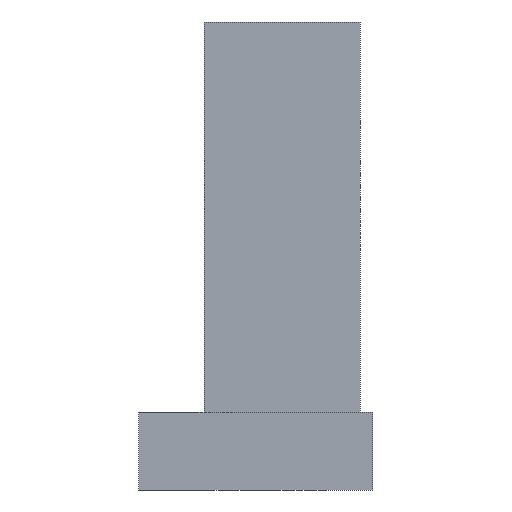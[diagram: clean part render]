
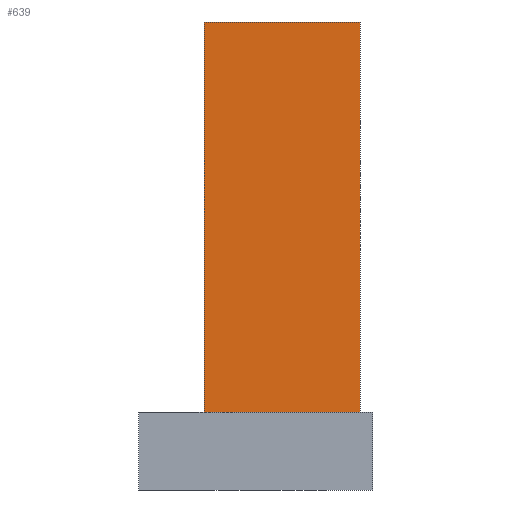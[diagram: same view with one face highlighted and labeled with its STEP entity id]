
A CAD part, left-side view. The second image highlights one B-rep face of the part: STEP entity #639.
In plain terms, the highlighted planar face has unit normal (-1, 0, 0).
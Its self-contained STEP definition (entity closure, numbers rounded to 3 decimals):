
#126 = PLANE('',#127);
#127 = AXIS2_PLACEMENT_3D('',#128,#129,#130);
#128 = CARTESIAN_POINT('',(-18.5,-4.5,3.));
#129 = DIRECTION('',(0.,0.,1.));
#130 = DIRECTION('',(1.,0.,0.));
#266 = VERTEX_POINT('',#267);
#267 = CARTESIAN_POINT('',(2.5,-4.,3.));
#281 = PLANE('',#282);
#282 = AXIS2_PLACEMENT_3D('',#283,#284,#285);
#283 = CARTESIAN_POINT('',(2.5,-4.,2.9));
#284 = DIRECTION('',(0.,1.,0.));
#285 = DIRECTION('',(0.,0.,1.));
#293 = EDGE_CURVE('',#266,#294,#296,.T.);
#294 = VERTEX_POINT('',#295);
#295 = CARTESIAN_POINT('',(2.5,2.,3.));
#296 = SURFACE_CURVE('',#297,(#301,#308),.PCURVE_S1.);
#297 = LINE('',#298,#299);
#298 = CARTESIAN_POINT('',(2.5,-4.25,3.));
#299 = VECTOR('',#300,1.);
#300 = DIRECTION('',(0.,1.,0.));
#301 = PCURVE('',#126,#302);
#302 = DEFINITIONAL_REPRESENTATION('',(#303),#307);
#303 = LINE('',#304,#305);
#304 = CARTESIAN_POINT('',(21.,0.25));
#305 = VECTOR('',#306,1.);
#306 = DIRECTION('',(0.,1.));
#307 = ( GEOMETRIC_REPRESENTATION_CONTEXT(2) 
PARAMETRIC_REPRESENTATION_CONTEXT() REPRESENTATION_CONTEXT('2D SPACE',''
  ) );
#308 = PCURVE('',#309,#314);
#309 = PLANE('',#310);
#310 = AXIS2_PLACEMENT_3D('',#311,#312,#313);
#311 = CARTESIAN_POINT('',(2.5,-4.,2.9));
#312 = DIRECTION('',(1.,0.,0.));
#313 = DIRECTION('',(0.,0.,1.));
#314 = DEFINITIONAL_REPRESENTATION('',(#315),#319);
#315 = LINE('',#316,#317);
#316 = CARTESIAN_POINT('',(0.1,0.25));
#317 = VECTOR('',#318,1.);
#318 = DIRECTION('',(0.,-1.));
#319 = ( GEOMETRIC_REPRESENTATION_CONTEXT(2) 
PARAMETRIC_REPRESENTATION_CONTEXT() REPRESENTATION_CONTEXT('2D SPACE',''
  ) );
#337 = PLANE('',#338);
#338 = AXIS2_PLACEMENT_3D('',#339,#340,#341);
#339 = CARTESIAN_POINT('',(2.5,2.,2.9));
#340 = DIRECTION('',(0.,1.,0.));
#341 = DIRECTION('',(0.,0.,1.));
#558 = PLANE('',#559);
#559 = AXIS2_PLACEMENT_3D('',#560,#561,#562);
#560 = CARTESIAN_POINT('',(2.5,-4.,18.));
#561 = DIRECTION('',(0.,0.,1.));
#562 = DIRECTION('',(1.,0.,0.));
#596 = EDGE_CURVE('',#294,#597,#599,.T.);
#597 = VERTEX_POINT('',#598);
#598 = CARTESIAN_POINT('',(2.5,2.,18.));
#599 = SURFACE_CURVE('',#600,(#604,#611),.PCURVE_S1.);
#600 = LINE('',#601,#602);
#601 = CARTESIAN_POINT('',(2.5,2.,2.9));
#602 = VECTOR('',#603,1.);
#603 = DIRECTION('',(0.,0.,1.));
#604 = PCURVE('',#337,#605);
#605 = DEFINITIONAL_REPRESENTATION('',(#606),#610);
#606 = LINE('',#607,#608);
#607 = CARTESIAN_POINT('',(0.,0.));
#608 = VECTOR('',#609,1.);
#609 = DIRECTION('',(1.,0.));
#610 = ( GEOMETRIC_REPRESENTATION_CONTEXT(2) 
PARAMETRIC_REPRESENTATION_CONTEXT() REPRESENTATION_CONTEXT('2D SPACE',''
  ) );
#611 = PCURVE('',#309,#612);
#612 = DEFINITIONAL_REPRESENTATION('',(#613),#617);
#613 = LINE('',#614,#615);
#614 = CARTESIAN_POINT('',(0.,-6.));
#615 = VECTOR('',#616,1.);
#616 = DIRECTION('',(1.,0.));
#617 = ( GEOMETRIC_REPRESENTATION_CONTEXT(2) 
PARAMETRIC_REPRESENTATION_CONTEXT() REPRESENTATION_CONTEXT('2D SPACE',''
  ) );
#639 = ADVANCED_FACE('',(#640),#309,.F.);
#640 = FACE_BOUND('',#641,.F.);
#641 = EDGE_LOOP('',(#642,#665,#666,#667));
#642 = ORIENTED_EDGE('',*,*,#643,.F.);
#643 = EDGE_CURVE('',#266,#644,#646,.T.);
#644 = VERTEX_POINT('',#645);
#645 = CARTESIAN_POINT('',(2.5,-4.,18.));
#646 = SURFACE_CURVE('',#647,(#651,#658),.PCURVE_S1.);
#647 = LINE('',#648,#649);
#648 = CARTESIAN_POINT('',(2.5,-4.,2.9));
#649 = VECTOR('',#650,1.);
#650 = DIRECTION('',(0.,0.,1.));
#651 = PCURVE('',#309,#652);
#652 = DEFINITIONAL_REPRESENTATION('',(#653),#657);
#653 = LINE('',#654,#655);
#654 = CARTESIAN_POINT('',(0.,0.));
#655 = VECTOR('',#656,1.);
#656 = DIRECTION('',(1.,0.));
#657 = ( GEOMETRIC_REPRESENTATION_CONTEXT(2) 
PARAMETRIC_REPRESENTATION_CONTEXT() REPRESENTATION_CONTEXT('2D SPACE',''
  ) );
#658 = PCURVE('',#281,#659);
#659 = DEFINITIONAL_REPRESENTATION('',(#660),#664);
#660 = LINE('',#661,#662);
#661 = CARTESIAN_POINT('',(0.,0.));
#662 = VECTOR('',#663,1.);
#663 = DIRECTION('',(1.,0.));
#664 = ( GEOMETRIC_REPRESENTATION_CONTEXT(2) 
PARAMETRIC_REPRESENTATION_CONTEXT() REPRESENTATION_CONTEXT('2D SPACE',''
  ) );
#665 = ORIENTED_EDGE('',*,*,#293,.T.);
#666 = ORIENTED_EDGE('',*,*,#596,.T.);
#667 = ORIENTED_EDGE('',*,*,#668,.F.);
#668 = EDGE_CURVE('',#644,#597,#669,.T.);
#669 = SURFACE_CURVE('',#670,(#674,#681),.PCURVE_S1.);
#670 = LINE('',#671,#672);
#671 = CARTESIAN_POINT('',(2.5,-4.,18.));
#672 = VECTOR('',#673,1.);
#673 = DIRECTION('',(0.,1.,0.));
#674 = PCURVE('',#309,#675);
#675 = DEFINITIONAL_REPRESENTATION('',(#676),#680);
#676 = LINE('',#677,#678);
#677 = CARTESIAN_POINT('',(15.1,0.));
#678 = VECTOR('',#679,1.);
#679 = DIRECTION('',(0.,-1.));
#680 = ( GEOMETRIC_REPRESENTATION_CONTEXT(2) 
PARAMETRIC_REPRESENTATION_CONTEXT() REPRESENTATION_CONTEXT('2D SPACE',''
  ) );
#681 = PCURVE('',#558,#682);
#682 = DEFINITIONAL_REPRESENTATION('',(#683),#687);
#683 = LINE('',#684,#685);
#684 = CARTESIAN_POINT('',(0.,0.));
#685 = VECTOR('',#686,1.);
#686 = DIRECTION('',(0.,1.));
#687 = ( GEOMETRIC_REPRESENTATION_CONTEXT(2) 
PARAMETRIC_REPRESENTATION_CONTEXT() REPRESENTATION_CONTEXT('2D SPACE',''
  ) );
